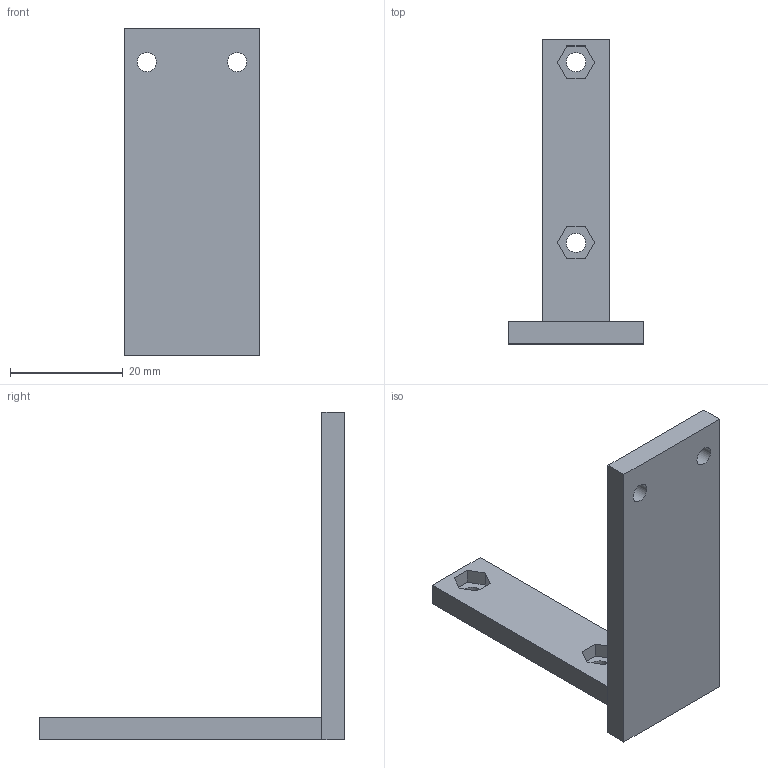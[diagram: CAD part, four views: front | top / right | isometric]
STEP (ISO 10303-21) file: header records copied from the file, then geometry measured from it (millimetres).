
FILE_DESCRIPTION(('Open CASCADE Model'),'2;1');
FILE_NAME('Open CASCADE Shape Model','2026-11-26T11:36:20',('Author'),( 'Open CASCADE'),'Open CASCADE STEP processor 8.0','build123d', 'Unknown');
FILE_SCHEMA(('AUTOMOTIVE_DESIGN { 1 0 10303 214 1 1 1 1 }'));
Length unit declared in the file: millimetre
Products named in the file (2): =>[0:1:1:2]; COMPOUND
Assembly tree (1 placements, depth 2):
  =>[0:1:1:2]
    COMPOUND
Bounding box: 24 x 54 x 58 mm (x, y, z)
Volume: 7723.6 mm3; surface area: 5185.4 mm2
Topology: 1 solids, 1 shells, 28 faces, 72 edges, 48 vertices
Faces by surface type: plane 24, cylinder 4
Full cylindrical faces by diameter (mm): 3.4 x4
Entity records: 1818 total; most frequent: CARTESIAN_POINT 300, DIRECTION 278, LINE 194, VECTOR 194, ORIENTED_EDGE 144, PCURVE 144, DEFINITIONAL_REPRESENTATION 144, EDGE_CURVE 72
